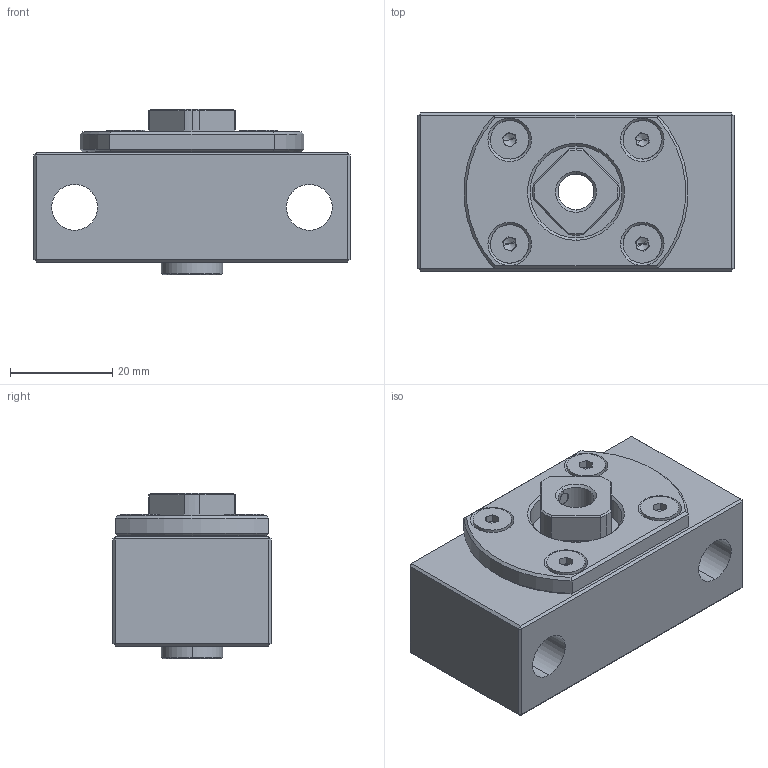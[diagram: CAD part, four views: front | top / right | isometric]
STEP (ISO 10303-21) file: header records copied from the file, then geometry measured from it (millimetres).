
FILE_DESCRIPTION (( 'STEP AP203' ), '1' );
FILE_NAME ('CSGK-8-P0-C7_203.STEP', '2013-03-03T01:34:45', ( 'Z77' ), ( '' ), 'SwSTEP 2.0', 'SolidWorks 2012', '' );
FILE_SCHEMA (( 'CONFIG_CONTROL_DESIGN' ));
Length unit declared in the file: millimetre
Products named in the file (1): CSGK-8-P0-C7_203
Bounding box: 62 x 31 x 32.5 mm (x, y, z)
Volume: 39105.3 mm3; surface area: 15205.2 mm2
Topology: 1 solids, 11 shells, 336 faces, 751 edges, 437 vertices
Faces by surface type: plane 128, cone 94, cylinder 90, torus 24
Entity records: 9320 total; most frequent: DIRECTION 1717, CARTESIAN_POINT 1666, ORIENTED_EDGE 1466, EDGE_CURVE 733, AXIS2_PLACEMENT_3D 678, VERTEX_POINT 437, EDGE_LOOP 378, LINE 361
